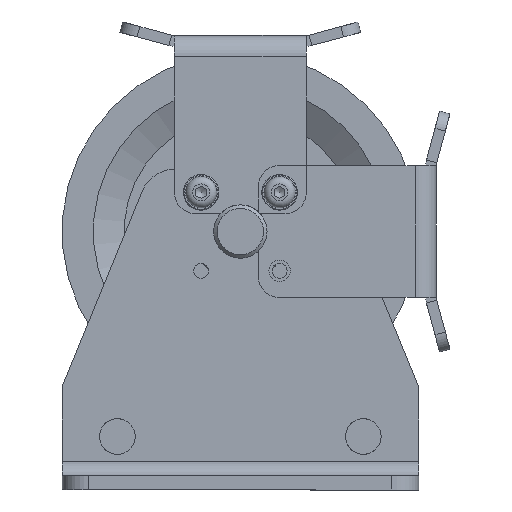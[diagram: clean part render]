
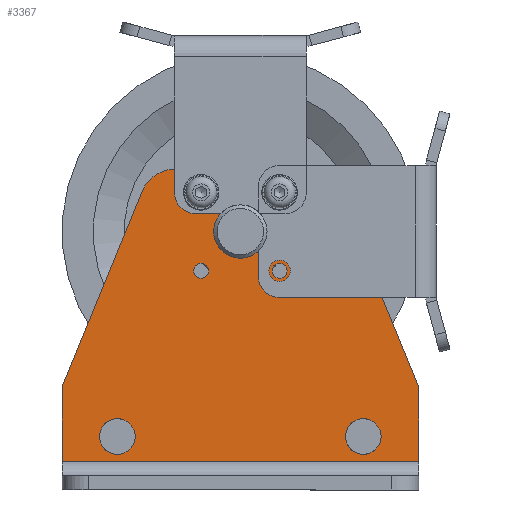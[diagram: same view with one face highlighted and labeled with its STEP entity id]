
A CAD part, front view. The second image highlights one B-rep face of the part: STEP entity #3367.
In plain terms, the highlighted planar face has unit normal (0, -1, 0) as drawn and (0, 0, 1) by its records, which use the part's own axes.
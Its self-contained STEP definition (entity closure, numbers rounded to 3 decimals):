
#216=FACE_BOUND('',#582,.T.);
#217=FACE_BOUND('',#583,.T.);
#218=FACE_BOUND('',#584,.T.);
#219=FACE_BOUND('',#585,.T.);
#220=FACE_BOUND('',#586,.T.);
#221=FACE_BOUND('',#587,.T.);
#222=FACE_BOUND('',#588,.T.);
#272=PLANE('',#3909);
#380=FACE_OUTER_BOUND('',#581,.T.);
#581=EDGE_LOOP('',(#2430,#2431,#2432,#2433,#2434,#2435,#2436,#2437));
#582=EDGE_LOOP('',(#2438,#2439));
#583=EDGE_LOOP('',(#2440,#2441));
#584=EDGE_LOOP('',(#2442,#2443));
#585=EDGE_LOOP('',(#2444,#2445));
#586=EDGE_LOOP('',(#2446));
#587=EDGE_LOOP('',(#2447));
#588=EDGE_LOOP('',(#2448));
#809=LINE('',#5714,#1000);
#812=LINE('',#5720,#1003);
#820=LINE('',#5754,#1011);
#824=LINE('',#5763,#1015);
#827=LINE('',#5770,#1018);
#828=LINE('',#5772,#1019);
#1000=VECTOR('',#4483,10.);
#1003=VECTOR('',#4488,10.);
#1011=VECTOR('',#4522,10.);
#1015=VECTOR('',#4532,10.);
#1018=VECTOR('',#4541,10.);
#1019=VECTOR('',#4544,10.);
#1168=CIRCLE('',#3846,4.188);
#1169=CIRCLE('',#3847,4.188);
#1171=CIRCLE('',#3850,4.188);
#1172=CIRCLE('',#3851,4.188);
#1174=CIRCLE('',#3854,4.188);
#1175=CIRCLE('',#3855,4.188);
#1177=CIRCLE('',#3858,4.188);
#1178=CIRCLE('',#3859,4.188);
#1199=CIRCLE('',#3896,10.);
#1200=CIRCLE('',#3898,10.);
#1201=CIRCLE('',#3900,15.);
#1202=CIRCLE('',#3903,20.);
#1203=CIRCLE('',#3906,20.);
#1461=VERTEX_POINT('',#5615);
#1462=VERTEX_POINT('',#5616);
#1464=VERTEX_POINT('',#5623);
#1465=VERTEX_POINT('',#5624);
#1467=VERTEX_POINT('',#5631);
#1468=VERTEX_POINT('',#5632);
#1470=VERTEX_POINT('',#5639);
#1471=VERTEX_POINT('',#5640);
#1493=VERTEX_POINT('',#5705);
#1494=VERTEX_POINT('',#5709);
#1496=VERTEX_POINT('',#5718);
#1505=VERTEX_POINT('',#5740);
#1506=VERTEX_POINT('',#5744);
#1507=VERTEX_POINT('',#5748);
#1508=VERTEX_POINT('',#5752);
#1509=VERTEX_POINT('',#5753);
#1510=VERTEX_POINT('',#5758);
#1511=VERTEX_POINT('',#5762);
#1512=VERTEX_POINT('',#5766);
#1800=EDGE_CURVE('',#1461,#1462,#1168,.T.);
#1801=EDGE_CURVE('',#1462,#1461,#1169,.T.);
#1804=EDGE_CURVE('',#1464,#1465,#1171,.T.);
#1805=EDGE_CURVE('',#1465,#1464,#1172,.T.);
#1808=EDGE_CURVE('',#1467,#1468,#1174,.T.);
#1809=EDGE_CURVE('',#1468,#1467,#1175,.T.);
#1812=EDGE_CURVE('',#1470,#1471,#1177,.T.);
#1813=EDGE_CURVE('',#1471,#1470,#1178,.T.);
#1849=EDGE_CURVE('',#1493,#1494,#809,.T.);
#1852=EDGE_CURVE('',#1496,#1494,#812,.T.);
#1863=EDGE_CURVE('',#1505,#1505,#1199,.T.);
#1865=EDGE_CURVE('',#1506,#1506,#1200,.T.);
#1867=EDGE_CURVE('',#1507,#1507,#1201,.T.);
#1868=EDGE_CURVE('',#1508,#1509,#820,.T.);
#1871=EDGE_CURVE('',#1509,#1510,#1202,.T.);
#1873=EDGE_CURVE('',#1510,#1511,#824,.T.);
#1875=EDGE_CURVE('',#1511,#1512,#1203,.T.);
#1877=EDGE_CURVE('',#1512,#1496,#827,.T.);
#1878=EDGE_CURVE('',#1493,#1508,#828,.T.);
#2430=ORIENTED_EDGE('',*,*,#1849,.T.);
#2431=ORIENTED_EDGE('',*,*,#1852,.F.);
#2432=ORIENTED_EDGE('',*,*,#1877,.F.);
#2433=ORIENTED_EDGE('',*,*,#1875,.F.);
#2434=ORIENTED_EDGE('',*,*,#1873,.F.);
#2435=ORIENTED_EDGE('',*,*,#1871,.F.);
#2436=ORIENTED_EDGE('',*,*,#1868,.F.);
#2437=ORIENTED_EDGE('',*,*,#1878,.F.);
#2438=ORIENTED_EDGE('',*,*,#1800,.T.);
#2439=ORIENTED_EDGE('',*,*,#1801,.T.);
#2440=ORIENTED_EDGE('',*,*,#1804,.T.);
#2441=ORIENTED_EDGE('',*,*,#1805,.T.);
#2442=ORIENTED_EDGE('',*,*,#1808,.T.);
#2443=ORIENTED_EDGE('',*,*,#1809,.T.);
#2444=ORIENTED_EDGE('',*,*,#1812,.T.);
#2445=ORIENTED_EDGE('',*,*,#1813,.T.);
#2446=ORIENTED_EDGE('',*,*,#1863,.T.);
#2447=ORIENTED_EDGE('',*,*,#1865,.T.);
#2448=ORIENTED_EDGE('',*,*,#1867,.T.);
#3367=ADVANCED_FACE('',(#380,#216,#217,#218,#219,#220,#221,#222),#272,.T.);
#3846=AXIS2_PLACEMENT_3D('',#5617,#4376,#4377);
#3847=AXIS2_PLACEMENT_3D('',#5618,#4378,#4379);
#3850=AXIS2_PLACEMENT_3D('',#5625,#4385,#4386);
#3851=AXIS2_PLACEMENT_3D('',#5626,#4387,#4388);
#3854=AXIS2_PLACEMENT_3D('',#5633,#4394,#4395);
#3855=AXIS2_PLACEMENT_3D('',#5634,#4396,#4397);
#3858=AXIS2_PLACEMENT_3D('',#5641,#4403,#4404);
#3859=AXIS2_PLACEMENT_3D('',#5642,#4405,#4406);
#3896=AXIS2_PLACEMENT_3D('',#5742,#4508,#4509);
#3898=AXIS2_PLACEMENT_3D('',#5746,#4513,#4514);
#3900=AXIS2_PLACEMENT_3D('',#5750,#4518,#4519);
#3903=AXIS2_PLACEMENT_3D('',#5759,#4527,#4528);
#3906=AXIS2_PLACEMENT_3D('',#5767,#4536,#4537);
#3909=AXIS2_PLACEMENT_3D('',#5773,#4545,#4546);
#4376=DIRECTION('center_axis',(0.,0.,-1.));
#4377=DIRECTION('ref_axis',(1.,0.,0.));
#4378=DIRECTION('center_axis',(0.,0.,-1.));
#4379=DIRECTION('ref_axis',(1.,0.,0.));
#4385=DIRECTION('center_axis',(0.,0.,-1.));
#4386=DIRECTION('ref_axis',(1.,0.,0.));
#4387=DIRECTION('center_axis',(0.,0.,-1.));
#4388=DIRECTION('ref_axis',(1.,0.,0.));
#4394=DIRECTION('center_axis',(0.,0.,-1.));
#4395=DIRECTION('ref_axis',(1.,0.,0.));
#4396=DIRECTION('center_axis',(0.,0.,-1.));
#4397=DIRECTION('ref_axis',(1.,0.,0.));
#4403=DIRECTION('center_axis',(0.,0.,-1.));
#4404=DIRECTION('ref_axis',(1.,0.,0.));
#4405=DIRECTION('center_axis',(0.,0.,-1.));
#4406=DIRECTION('ref_axis',(1.,0.,0.));
#4483=DIRECTION('',(1.,0.,0.));
#4488=DIRECTION('',(0.,-1.,0.));
#4508=DIRECTION('center_axis',(0.,0.,-1.));
#4509=DIRECTION('ref_axis',(-1.,0.,0.));
#4513=DIRECTION('center_axis',(0.,0.,-1.));
#4514=DIRECTION('ref_axis',(-1.,0.,0.));
#4518=DIRECTION('center_axis',(0.,0.,-1.));
#4519=DIRECTION('ref_axis',(-1.,0.,0.));
#4522=DIRECTION('',(0.379,0.925,0.));
#4527=DIRECTION('center_axis',(0.,0.,-1.));
#4528=DIRECTION('ref_axis',(0.,1.,0.));
#4532=DIRECTION('',(1.,0.,0.));
#4536=DIRECTION('center_axis',(0.,0.,-1.));
#4537=DIRECTION('ref_axis',(0.925,0.379,0.));
#4541=DIRECTION('',(0.379,-0.925,0.));
#4544=DIRECTION('',(0.,1.,0.));
#4545=DIRECTION('center_axis',(0.,0.,1.));
#4546=DIRECTION('ref_axis',(1.,0.,0.));
#5615=CARTESIAN_POINT('',(-17.812,123.,8.));
#5616=CARTESIAN_POINT('',(-26.188,123.,8.));
#5617=CARTESIAN_POINT('Origin',(-22.,123.,8.));
#5618=CARTESIAN_POINT('Origin',(-22.,123.,8.));
#5623=CARTESIAN_POINT('',(26.188,123.,8.));
#5624=CARTESIAN_POINT('',(17.812,123.,8.));
#5625=CARTESIAN_POINT('Origin',(22.,123.,8.));
#5626=CARTESIAN_POINT('Origin',(22.,123.,8.));
#5631=CARTESIAN_POINT('',(-17.812,167.,8.));
#5632=CARTESIAN_POINT('',(-26.188,167.,8.));
#5633=CARTESIAN_POINT('Origin',(-22.,167.,8.));
#5634=CARTESIAN_POINT('Origin',(-22.,167.,8.));
#5639=CARTESIAN_POINT('',(26.188,167.,8.));
#5640=CARTESIAN_POINT('',(17.812,167.,8.));
#5641=CARTESIAN_POINT('Origin',(22.,167.,8.));
#5642=CARTESIAN_POINT('Origin',(22.,167.,8.));
#5705=CARTESIAN_POINT('',(-100.,16.,8.));
#5709=CARTESIAN_POINT('',(100.,16.,8.));
#5714=CARTESIAN_POINT('',(50.,16.,8.));
#5718=CARTESIAN_POINT('',(100.,58.,8.));
#5720=CARTESIAN_POINT('',(100.,0.,8.));
#5740=CARTESIAN_POINT('',(79.,30.,8.));
#5742=CARTESIAN_POINT('Origin',(69.,30.,8.));
#5744=CARTESIAN_POINT('',(-59.,30.,8.));
#5746=CARTESIAN_POINT('Origin',(-69.,30.,8.));
#5748=CARTESIAN_POINT('',(15.,145.,8.));
#5750=CARTESIAN_POINT('Origin',(0.,145.,8.));
#5752=CARTESIAN_POINT('',(-100.,58.,8.));
#5753=CARTESIAN_POINT('',(-55.088,167.584,8.));
#5754=CARTESIAN_POINT('',(-55.088,167.584,8.));
#5758=CARTESIAN_POINT('',(-36.582,180.,8.));
#5759=CARTESIAN_POINT('Origin',(-36.582,160.,8.));
#5762=CARTESIAN_POINT('',(36.582,180.,8.));
#5763=CARTESIAN_POINT('',(36.582,180.,8.));
#5766=CARTESIAN_POINT('',(55.088,167.584,8.));
#5767=CARTESIAN_POINT('Origin',(36.582,160.,8.));
#5770=CARTESIAN_POINT('',(100.,58.,8.));
#5772=CARTESIAN_POINT('',(-100.,58.,8.));
#5773=CARTESIAN_POINT('Origin',(0.,76.556,8.));
